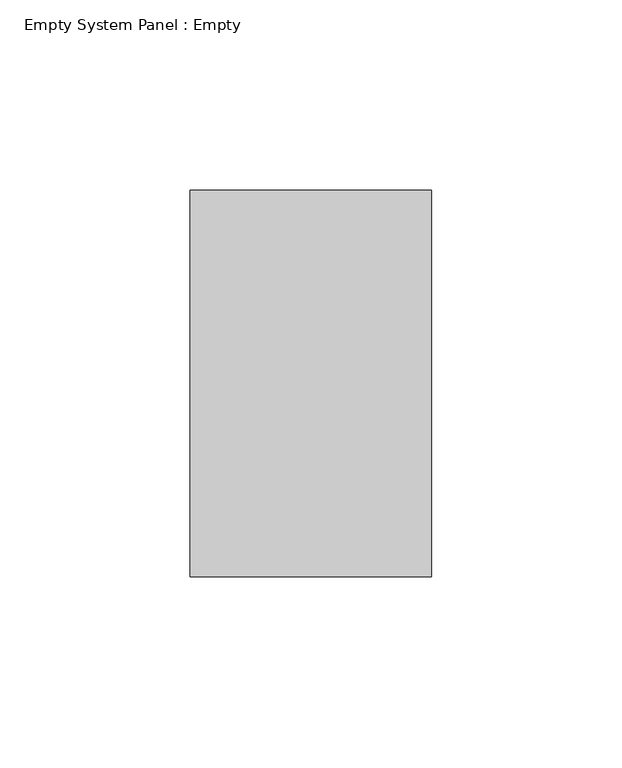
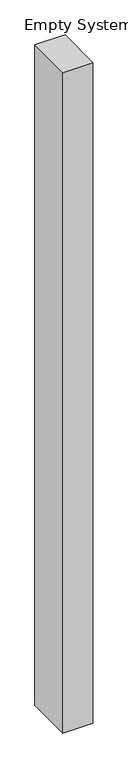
"""IFC4 building model written with IfcOpenShell, lengths in millimetres: plate geometry, Empty System Panel : Empty."""

from ifc_helpers import new_model, si_unit, origin, origin_with_axes, place, context, project, spatial, polyline, outline, extrude, source, transform, mapped, element, save


def empty_system_panel_empty_ced3090c(model_context):
    return source(origin(), model_context, "Body", "SweptSolid", [
        extrude(outline(polyline([(31.75, -50.8), (-31.75, -50.8), (-31.75, 50.8), (31.75, 50.8), (31.75, -50.8)])), origin_with_axes(), (0.0, 0.0, 1.0), 1473.2),
    ])


if __name__ == "__main__":
    model = new_model("IFC4")
    model_context = context("Model", 3, world=origin())
    ifc_project = project(units=[si_unit("LENGTHUNIT", "METRE", prefix="MILLI")], contexts=[model_context])
    site = spatial("IfcSite", under=ifc_project)
    building = spatial("IfcBuilding", under=site)
    placement = place(None, origin())
    empty_system_panel_empty_shape = empty_system_panel_empty_ced3090c(model_context)
    element("IfcPlate", 1, ObjectType="Empty System Panel : Empty", at=placement, inside=building, context=model_context, shape_type="MappedRepresentation", body=[
        mapped(empty_system_panel_empty_shape, transform((0.0, 0.0, 0.0), x_axis=(1.0, 0.0, 0.0), y_axis=(0.0, 1.0, 0.0), z_axis=(0.0, 0.0, 1.0))),
    ])
    save(model, "model.ifc")
